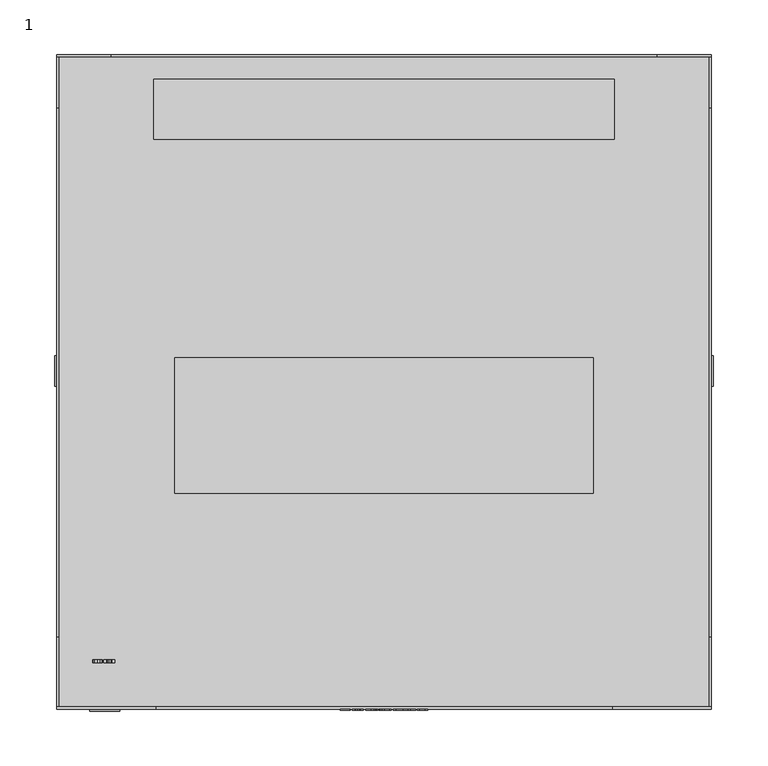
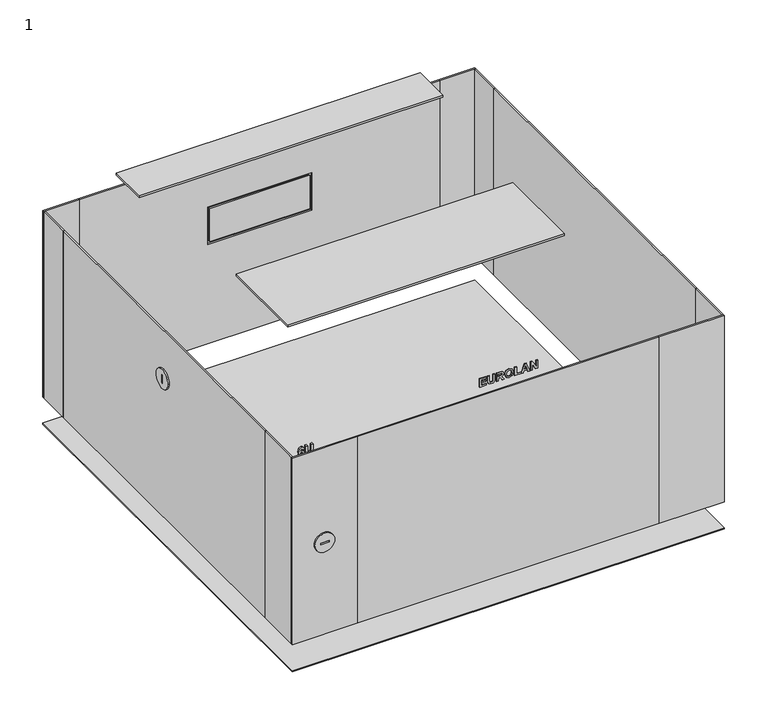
"""IFC4 building model written with IfcOpenShell, lengths in millimetres: proxy geometry, 1 : 6U 600мм стеклянная дверь."""

from ifc_helpers import new_model, si_unit, point, frame, frame_2d, origin, origin_with_axes, place, context, project, spatial, polyline, circle_curve, trimmed, segment, composite_curve, outline, extrude, source, transform, mapped, element, save


def proxy_1_a0e742fd(model_context):
    return source(origin(), model_context, "Body", "SweptSolid", [
        extrude(outline(polyline([(328.0, -40.3245382), (328.0, -30.9964522), (330.1376864, -30.9964522), (330.1376864, -37.9925167), (333.2470483, -37.9925167), (333.2470483, -31.5794576), (335.3847347, -31.5794576), (335.3847347, -37.9925167), (338.1054264, -37.9925167), (338.1054264, -31.1907874), (340.2431128, -31.1907874), (340.2431128, -40.3245382), (328.0, -40.3245382)])), frame((0.0, -301.0, 0.0), z_axis=(0.0, 1.0, 0.0), x_axis=(0.0, 0.0, 1.0)), (0.0, 0.0, 1.0), 1.0),
        extrude(outline(polyline([(340.2431128, -29.053101), (333.7207402, -29.053101), (330.6174512, -28.8071456), (329.2601418, -28.1026808), (328.2095176, -26.6482039), (327.8056649, -23.9487675), (328.1761162, -21.5575346), (329.173602, -20.0954664), (330.7085458, -19.3454543), (333.8209443, -19.1420097), (340.2431128, -19.1420097), (340.2431128, -21.4740312), (333.4960402, -21.4740312), (331.4236383, -21.5924541), (330.3714958, -22.2923642), (329.9433512, -24.0216432), (330.3973059, -25.7979877), (331.5982363, -26.6208755), (333.6387551, -26.7210795), (340.2431128, -26.7210795), (340.2431128, -29.053101)])), frame((0.0, -301.0, 0.0), z_axis=(0.0, 1.0, 0.0), x_axis=(0.0, 0.0, 1.0)), (0.0, 0.0, 1.0), 1.0),
        extrude(outline(polyline([(328.0, -16.8099882), (328.0, -14.4779667), (333.0527132, -13.9435451), (332.9251808, -12.6120459), (332.4560437, -11.8164865), (330.7966039, -10.4242575), (328.0, -8.6509495), (328.0, -5.9272213), (330.3745323, -7.424209), (332.3512849, -8.7238252), (333.3715443, -9.9475291), (334.5071902, -7.6625732), (336.7936644, -6.8988969), (338.7339791, -7.4272455), (339.9121358, -8.8361752), (340.2431128, -11.6601074), (340.2431128, -16.8099882), (328.0, -16.8099882)]), holes=[polyline([(335.1903996, -14.4779667), (338.1054264, -14.4779667), (338.1054264, -12.4495939), (338.0659521, -10.5548264), (337.6150339, -9.5770778), (336.6782779, -9.2309184), (335.817434, -9.4935744), (335.3315962, -10.2223312), (335.1903996, -12.5558709), (335.1903996, -14.4779667)])]), frame((0.0, -301.0, 0.0), z_axis=(0.0, 1.0, 0.0), x_axis=(0.0, 0.0, 1.0)), (0.0, 0.0, 1.0), 1.0),
        extrude(outline(polyline([(334.0456442, -4.9555457), (329.4681411, -3.3735363), (327.8056649, 0.8896905), (329.4757323, 5.1225524), (334.106374, 6.7045618), (338.7628257, 5.1104065), (340.4374479, 0.8593256), (339.9546466, -1.7338337), (338.8539203, -3.2869964), (337.1792981, -4.4059416), (334.0456442, -4.9555457)]), holes=[polyline([(334.1306659, -2.6235242), (337.2612832, -1.6579215), (338.2997616, 0.886654), (337.2734292, 3.4190836), (334.1640672, 4.3725403), (330.9985302, 3.3932735), (329.9433512, 0.886654), (331.0061214, -1.6321114), (334.1306659, -2.6235242)])]), frame((0.0, -301.0, 0.0), z_axis=(0.0, 1.0, 0.0), x_axis=(0.0, 0.0, 1.0)), (0.0, 0.0, 1.0), 1.0),
        extrude(outline(polyline([(328.0, 8.647913), (328.0, 17.1986585), (330.1376864, 17.1986585), (330.1376864, 10.9799345), (340.2431128, 10.9799345), (340.2431128, 8.647913), (328.0, 8.647913)])), frame((0.0, -301.0, 0.0), z_axis=(0.0, 1.0, 0.0), x_axis=(0.0, 0.0, 1.0)), (0.0, 0.0, 1.0), 1.0),
        extrude(outline(polyline([(328.0, 29.2474361), (340.2431128, 24.7352175), (340.2431128, 22.2513717), (328.0, 17.7816638), (328.0, 20.2655096), (330.7206917, 21.2128934), (330.7206917, 25.837462), (328.0, 26.7969917), (328.0, 29.2474361)]), holes=[polyline([(332.8583781, 25.0904864), (332.8583781, 21.959869), (337.3280859, 23.51455), (332.8583781, 25.0904864)])]), frame((0.0, -301.0, 0.0), z_axis=(0.0, 1.0, 0.0), x_axis=(0.0, 0.0, 1.0)), (0.0, 0.0, 1.0), 1.0),
        extrude(outline(polyline([(328.0, 30.4134469), (328.0, 32.7454684), (336.1195644, 32.7454684), (328.0, 37.8042546), (328.0, 40.3245382), (340.2431128, 40.3245382), (340.2431128, 37.9925167), (332.002089, 37.9925167), (340.2431128, 32.8578184), (340.2431128, 30.4134469), (328.0, 30.4134469)])), frame((0.0, -301.0, 0.0), z_axis=(0.0, 1.0, 0.0), x_axis=(0.0, 0.0, 1.0)), (0.0, 0.0, 1.0), 1.0),
        extrude(outline(composite_curve([segment(trimmed(circle_curve(frame_2d((9.997621, 243.4611412)), 14.0), [point((-4.002379, 243.4611412))], [point((23.997621, 243.4611412))], False, "CARTESIAN"), True, "CONTINUOUS"), segment(trimmed(circle_curve(frame_2d((9.997621, 243.4611412)), 14.0), [point((23.997621, 243.4611412))], [point((-4.002379, 243.4611412))], False, "CARTESIAN"), True, "CONTINUOUS")], self_intersect=False), holes=[polyline([(11.0, 249.5), (9.0, 249.5), (9.0, 237.5), (11.0, 237.5), (11.0, 249.5)])]), frame((-302.0, 0.0, 0.0), z_axis=(1.0, 0.0, 0.0), x_axis=(0.0, 1.0, 0.0)), (0.0, 0.0, 1.0), 2.0),
        extrude(outline(composite_curve([segment(trimmed(circle_curve(frame_2d((9.997621, 243.4611412)), 14.0), [point((-4.002379, 243.4611412))], [point((23.997621, 243.4611412))], False, "CARTESIAN"), True, "CONTINUOUS"), segment(trimmed(circle_curve(frame_2d((9.997621, 243.4611412)), 14.0), [point((23.997621, 243.4611412))], [point((-4.002379, 243.4611412))], False, "CARTESIAN"), True, "CONTINUOUS")], self_intersect=False), holes=[polyline([(11.0, 249.5), (9.0, 249.5), (9.0, 237.5), (11.0, 237.5), (11.0, 249.5)])]), frame((300.0, 0.0, 0.0), z_axis=(1.0, 0.0, 0.0), x_axis=(0.0, 1.0, 0.0)), (0.0, 0.0, 1.0), 2.0),
        extrude(outline(composite_curve([segment(trimmed(circle_curve(frame_2d((176.0, -256.0)), 13.7647373), [point((176.0, -242.2352627))], [point((176.0, -269.7647373))], False, "CARTESIAN"), True, "CONTINUOUS"), segment(trimmed(circle_curve(frame_2d((176.0, -256.0)), 13.7647373), [point((176.0, -269.7647373))], [point((176.0, -242.2352627))], False, "CARTESIAN"), True, "CONTINUOUS")], self_intersect=False), holes=[polyline([(177.0, -250.0), (175.0, -250.0), (175.0, -262.0), (177.0, -262.0), (177.0, -250.0)])]), frame((0.0, -302.0, 0.0), z_axis=(0.0, 1.0, 0.0), x_axis=(0.0, 0.0, 1.0)), (0.0, 0.0, 1.0), 2.0),
        extrude(outline(polyline([(300.0, 300.0), (300.0, -300.0), (-300.0, -300.0), (-300.0, 300.0), (300.0, 300.0)])), origin_with_axes(), (0.0, 0.0, 1.0), 2.0),
        extrude(outline(polyline([(211.0, 277.5), (211.0, 222.5), (-211.0, 222.5), (-211.0, 277.5), (211.0, 277.5)])), frame((0.0, 0.0, 348.9795778), z_axis=(0.0, 0.0, 1.0), x_axis=(1.0, 0.0, 0.0)), (0.0, 0.0, 1.0), 3.0204222),
        extrude(outline(polyline([(192.0, 22.0), (192.0, -102.0), (-192.0, -102.0), (-192.0, 22.0), (192.0, 22.0)])), frame((0.0, 0.0, 348.9795778), z_axis=(0.0, 0.0, 1.0), x_axis=(1.0, 0.0, 0.0)), (0.0, 0.0, 1.0), 3.0204222),
        extrude(outline(polyline([(-69.5, 300.0), (69.5, 300.0), (69.5, 298.0), (-69.5, 298.0), (-69.5, 300.0)])), frame((0.0, 0.0, 189.0), z_axis=(0.0, 0.0, 1.0), x_axis=(1.0, 0.0, 0.0)), (0.0, 0.0, 1.0), 49.0),
        extrude(outline(polyline([(314.0, -250.0), (40.0, -250.0), (40.0, 250.0), (314.0, 250.0), (314.0, -250.0)]), holes=[polyline([(241.0, -72.5), (241.0, 72.5), (186.0, 72.5), (186.0, -72.5), (241.0, -72.5)])]), frame((0.0, 298.0, 0.0), z_axis=(0.0, 1.0, 0.0), x_axis=(0.0, 0.0, 1.0)), (0.0, 0.0, 1.0), 2.0),
        extrude(outline(polyline([(-300.0, 300.0), (-250.0, 300.0), (-250.0, 298.0), (-300.0, 298.0), (-300.0, 300.0)])), frame((0.0, 0.0, 40.0), z_axis=(0.0, 0.0, 1.0), x_axis=(1.0, 0.0, 0.0)), (0.0, 0.0, 1.0), 274.0),
        extrude(outline(polyline([(250.0, 300.0), (300.0, 300.0), (300.0, 298.0), (250.0, 298.0), (250.0, 300.0)])), frame((0.0, 0.0, 40.0), z_axis=(0.0, 0.0, 1.0), x_axis=(1.0, 0.0, 0.0)), (0.0, 0.0, 1.0), 274.0),
        extrude(outline(polyline([(-209.0, -298.0), (209.0, -298.0), (209.0, -300.0), (-209.0, -300.0), (-209.0, -298.0)])), frame((0.0, 0.0, 40.0), z_axis=(0.0, 0.0, 1.0), x_axis=(1.0, 0.0, 0.0)), (0.0, 0.0, 1.0), 274.0),
        extrude(outline(polyline([(209.0, -298.0), (300.0, -298.0), (300.0, -300.0), (209.0, -300.0), (209.0, -298.0)])), frame((0.0, 0.0, 40.0), z_axis=(0.0, 0.0, 1.0), x_axis=(1.0, 0.0, 0.0)), (0.0, 0.0, 1.0), 274.0),
        extrude(outline(polyline([(-300.0, -298.0), (-209.0, -298.0), (-209.0, -300.0), (-300.0, -300.0), (-300.0, -298.0)])), frame((0.0, 0.0, 40.0), z_axis=(0.0, 0.0, 1.0), x_axis=(1.0, 0.0, 0.0)), (0.0, 0.0, 1.0), 274.0),
        extrude(outline(polyline([(-298.0, 250.8155315), (-298.0, -233.7095641), (-300.0, -233.7095641), (-300.0, 250.8155315), (-298.0, 250.8155315)])), frame((0.0, 0.0, 40.0), z_axis=(0.0, 0.0, 1.0), x_axis=(1.0, 0.0, 0.0)), (0.0, 0.0, 1.0), 274.0),
        extrude(outline(polyline([(-298.0, -233.7095641), (-298.0, -300.0), (-300.0, -300.0), (-300.0, -233.7095641), (-298.0, -233.7095641)])), frame((0.0, 0.0, 40.0), z_axis=(0.0, 0.0, 1.0), x_axis=(1.0, 0.0, 0.0)), (0.0, 0.0, 1.0), 274.0),
        extrude(outline(polyline([(-298.0, 300.0), (-298.0, 250.8155315), (-300.0, 250.8155315), (-300.0, 300.0), (-298.0, 300.0)])), frame((0.0, 0.0, 40.0), z_axis=(0.0, 0.0, 1.0), x_axis=(1.0, 0.0, 0.0)), (0.0, 0.0, 1.0), 274.0),
        extrude(outline(polyline([(300.0, 250.8155315), (300.0, -233.7095641), (298.0, -233.7095641), (298.0, 250.8155315), (300.0, 250.8155315)])), frame((0.0, 0.0, 40.0), z_axis=(0.0, 0.0, 1.0), x_axis=(1.0, 0.0, 0.0)), (0.0, 0.0, 1.0), 274.0),
        extrude(outline(polyline([(300.0, 300.0), (300.0, 250.8155315), (298.0, 250.8155315), (298.0, 300.0), (300.0, 300.0)])), frame((0.0, 0.0, 40.0), z_axis=(0.0, 0.0, 1.0), x_axis=(1.0, 0.0, 0.0)), (0.0, 0.0, 1.0), 274.0),
        extrude(outline(polyline([(300.0, -233.7095641), (300.0, -300.0), (298.0, -300.0), (298.0, -233.7095641), (300.0, -233.7095641)])), frame((0.0, 0.0, 40.0), z_axis=(0.0, 0.0, 1.0), x_axis=(1.0, 0.0, 0.0)), (0.0, 0.0, 1.0), 274.0),
        extrude(outline(polyline([(287.6111434, -258.8540615), (290.0281866, -259.9654155), (290.8601838, -262.1668681), (289.381415, -265.2473834), (284.5534017, -266.4331314), (279.8559574, -265.2974855), (278.4227359, -262.4006775), (279.5325716, -259.7073142), (282.4764451, -258.6597264), (285.2973409, -259.6845405), (286.390476, -262.1486492), (285.3671801, -264.2802626), (288.0772441, -263.6638558), (288.7224974, -262.4674802), (288.3900022, -261.5990451), (287.3621516, -261.186083), (287.6111434, -258.8540615)]), holes=[polyline([(282.5280654, -264.1011099), (283.8155356, -263.6532281), (284.2527896, -262.5585748), (283.7957984, -261.4396296), (282.3549856, -260.9917479), (280.9794573, -261.4077465), (280.5604222, -262.4462248), (281.0720702, -263.5970531), (282.5280654, -264.1011099)])]), frame((0.0, -257.6777479, 0.0), z_axis=(0.0, 1.0, 0.0), x_axis=(0.0, 0.0, 1.0)), (0.0, 0.0, 1.0), 3.0),
        extrude(outline(polyline([(290.8601838, -256.7163752), (284.3378112, -256.7163752), (281.2345222, -256.4704198), (279.8772128, -255.7659549), (278.8265886, -254.311478), (278.4227359, -251.6120417), (278.7931872, -249.2208087), (279.790673, -247.7587405), (281.3256168, -247.0087284), (284.4380153, -246.8052838), (290.8601838, -246.8052838), (290.8601838, -249.1373053), (284.1131112, -249.1373053), (282.0407093, -249.2557283), (280.9885668, -249.9556384), (280.5604222, -251.6849173), (281.0143769, -253.4612618), (282.2153073, -254.2841496), (284.2558261, -254.3843537), (290.8601838, -254.3843537), (290.8601838, -256.7163752)])), frame((0.0, -257.6777479, 0.0), z_axis=(0.0, 1.0, 0.0), x_axis=(0.0, 0.0, 1.0)), (0.0, 0.0, 1.0), 3.0),
        extrude(outline(polyline([(237.3503584, -266.4331314), (234.6964693, -265.1957632), (233.7096113, -262.522137), (235.2825112, -259.312571), (237.9029989, -258.4653913), (240.7679237, -259.4826142), (241.8716865, -261.960387), (241.3949581, -263.4634477), (243.6207026, -262.9927924), (243.6207026, -259.0483966), (245.9527241, -259.0483966), (245.9527241, -264.8784504), (239.0629366, -266.2387962), (238.7623245, -264.2164963), (239.7340001, -262.509991), (239.2633447, -261.2726229), (237.8513786, -260.7974128), (236.3467996, -261.3090607), (235.8472976, -262.5585748), (236.317953, -263.7002937), (237.5963138, -264.295445), (237.3503584, -266.4331314)])), frame((0.0, -257.6777479, 0.0), z_axis=(0.0, 1.0, 0.0), x_axis=(0.0, 0.0, 1.0)), (0.0, 0.0, 1.0), 3.0),
        extrude(outline(polyline([(246.1470592, -256.7163752), (239.6246866, -256.7163752), (236.5213976, -256.4704198), (235.1640882, -255.7659549), (234.113464, -254.311478), (233.7096113, -251.6120417), (234.0800626, -249.2208087), (235.0775484, -247.7587405), (236.6124922, -247.0087284), (239.7248907, -246.8052838), (246.1470592, -246.8052838), (246.1470592, -249.1373053), (239.3999866, -249.1373053), (237.3275847, -249.2557283), (236.2754422, -249.9556384), (235.8472976, -251.6849173), (236.3012523, -253.4612618), (237.5021827, -254.2841496), (239.5427015, -254.3843537), (246.1470592, -254.3843537), (246.1470592, -256.7163752)])), frame((0.0, -257.6777479, 0.0), z_axis=(0.0, 1.0, 0.0), x_axis=(0.0, 0.0, 1.0)), (0.0, 0.0, 1.0), 3.0),
        extrude(outline(polyline([(189.9283299, -262.1577586), (189.9283299, -259.8257371), (192.4546865, -259.8257371), (192.4546865, -258.2710562), (194.3980377, -258.2710562), (194.3980377, -259.8257371), (201.9771076, -259.8257371), (201.9771076, -261.848037), (194.3889283, -266.8218016), (192.4546865, -266.8218016), (192.4546865, -262.1577586), (189.9283299, -262.1577586)]), holes=[polyline([(194.3980377, -262.1577586), (194.3980377, -264.7630639), (198.3758348, -262.1577586), (194.3980377, -262.1577586)])]), frame((0.0, -257.6777479, 0.0), z_axis=(0.0, 1.0, 0.0), x_axis=(0.0, 0.0, 1.0)), (0.0, 0.0, 1.0), 3.0),
        extrude(outline(polyline([(202.1714427, -256.7163752), (195.6490701, -256.7163752), (192.5457811, -256.4704198), (191.1884717, -255.7659549), (190.1378475, -254.311478), (189.7339948, -251.6120417), (190.1044461, -249.2208087), (191.1019319, -247.7587405), (192.6368757, -247.0087284), (195.7492742, -246.8052838), (202.1714427, -246.8052838), (202.1714427, -249.1373053), (195.4243701, -249.1373053), (193.3519682, -249.2557283), (192.2998257, -249.9556384), (191.8716811, -251.6849173), (192.3256358, -253.4612618), (193.5265662, -254.2841496), (195.567085, -254.3843537), (202.1714427, -254.3843537), (202.1714427, -256.7163752)])), frame((0.0, -257.6777479, 0.0), z_axis=(0.0, 1.0, 0.0), x_axis=(0.0, 0.0, 1.0)), (0.0, 0.0, 1.0), 3.0),
        extrude(outline(polyline([(148.35045, -266.4331314), (145.734517, -265.2200551), (144.7339948, -262.5859032), (145.859013, -259.7847446), (148.5781864, -258.6597264), (150.4562532, -259.294352), (151.4567755, -260.9887114), (154.0286794, -259.2427318), (156.0691982, -260.0565101), (157.1714427, -262.6739613), (156.773663, -264.3971673), (155.6820462, -265.5965794), (153.8282713, -266.2387962), (153.4790753, -263.9067747), (154.6374949, -263.4892579), (155.0337563, -262.6587789), (154.6921516, -261.8708107), (153.776651, -261.5747533), (152.6956619, -261.9710147), (152.3130646, -263.1203248), (150.3909688, -263.3237694), (150.5640485, -262.397641), (150.0812472, -261.4001553), (148.7725216, -260.9917479), (147.3863656, -261.4381114), (146.8716811, -262.5403559), (147.3210811, -263.5757977), (148.6206973, -264.1011099), (148.35045, -266.4331314)])), frame((0.0, -257.6777479, 0.0), z_axis=(0.0, 1.0, 0.0), x_axis=(0.0, 0.0, 1.0)), (0.0, 0.0, 1.0), 3.0),
        extrude(outline(polyline([(157.1714427, -256.7163752), (150.6490701, -256.7163752), (147.5457811, -256.4704198), (146.1884717, -255.7659549), (145.1378475, -254.311478), (144.7339948, -251.6120417), (145.1044461, -249.2208087), (146.1019319, -247.7587405), (147.6368757, -247.0087284), (150.7492742, -246.8052838), (157.1714427, -246.8052838), (157.1714427, -249.1373053), (150.4243701, -249.1373053), (148.3519682, -249.2557283), (147.2998257, -249.9556384), (146.8716811, -251.6849173), (147.3256358, -253.4612618), (148.5265662, -254.2841496), (150.567085, -254.3843537), (157.1714427, -254.3843537), (157.1714427, -256.7163752)])), frame((0.0, -257.6777479, 0.0), z_axis=(0.0, 1.0, 0.0), x_axis=(0.0, 0.0, 1.0)), (0.0, 0.0, 1.0), 3.0),
        extrude(outline(polyline([(103.3014708, -258.8246798), (103.9391329, -262.7326376), (105.2660774, -261.4011384), (106.7964665, -259.9512162), (108.3298921, -259.094927), (109.8724272, -258.8246798), (112.2545507, -259.8115378), (113.2125621, -262.5261566), (112.3577912, -265.1527172), (109.5384137, -266.4037496), (109.3258596, -264.0717281), (110.6695048, -263.6223281), (111.0748758, -262.5777768), (110.6634319, -261.5347438), (109.4837569, -261.1567012), (108.0809003, -261.6061012), (106.1254031, -263.4097741), (103.2574418, -265.8541456), (100.9694493, -266.5980847), (100.9694493, -258.8246798), (103.3014708, -258.8246798)])), frame((0.0, -257.6777479, 0.0), z_axis=(0.0, 1.0, 0.0), x_axis=(0.0, 0.0, 1.0)), (0.0, 0.0, 1.0), 3.0),
        extrude(outline(polyline([(113.2125621, -256.8813285), (106.6901895, -256.8813285), (103.5869005, -256.6353731), (102.2295911, -255.9309083), (101.1789669, -254.4764314), (100.7751142, -251.776995), (101.1455655, -249.3857621), (102.1430513, -247.9236939), (103.6779951, -247.1736818), (106.7903936, -246.9702372), (113.2125621, -246.9702372), (113.2125621, -249.3022587), (106.4654895, -249.3022587), (104.3930876, -249.4206817), (103.3409451, -250.1205917), (102.9128006, -251.8498707), (103.3667553, -253.6262152), (104.5676856, -254.449103), (106.6082044, -254.549307), (113.2125621, -254.549307), (113.2125621, -256.8813285)])), frame((0.0, -257.6777479, 0.0), z_axis=(0.0, 1.0, 0.0), x_axis=(0.0, 0.0, 1.0)), (0.0, 0.0, 1.0), 3.0),
        extrude(outline(polyline([(59.9283299, -260.6030776), (72.1714427, -260.6030776), (72.1714427, -262.4614073), (70.2053178, -263.9037383), (69.0620807, -265.850126), (66.7300592, -265.850126), (68.6794834, -262.9350991), (59.9283299, -262.9350991), (59.9283299, -260.6030776)])), frame((0.0, -257.6777479, 0.0), z_axis=(0.0, 1.0, 0.0), x_axis=(0.0, 0.0, 1.0)), (0.0, 0.0, 1.0), 3.0),
        extrude(outline(polyline([(72.1714427, -256.7163752), (65.6490701, -256.7163752), (62.5457811, -256.4704198), (61.1884717, -255.7659549), (60.1378475, -254.311478), (59.7339948, -251.6120417), (60.1044461, -249.2208087), (61.1019319, -247.7587405), (62.6368757, -247.0087284), (65.7492742, -246.8052838), (72.1714427, -246.8052838), (72.1714427, -249.1373053), (65.4243701, -249.1373053), (63.3519682, -249.2557283), (62.2998257, -249.9556384), (61.8716811, -251.6849173), (62.3256358, -253.4612618), (63.5265662, -254.2841496), (65.567085, -254.3843537), (72.1714427, -254.3843537), (72.1714427, -256.7163752)])), frame((0.0, -257.6777479, 0.0), z_axis=(0.0, 1.0, 0.0), x_axis=(0.0, 0.0, 1.0)), (0.0, 0.0, 1.0), 3.0),
    ])


if __name__ == "__main__":
    model = new_model("IFC4")
    model_context = context("Model", 3, world=origin())
    ifc_project = project(units=[si_unit("LENGTHUNIT", "METRE", prefix="MILLI")], contexts=[model_context])
    site = spatial("IfcSite", under=ifc_project)
    building = spatial("IfcBuilding", under=site)
    placement = place(None, origin())
    proxy_1_shape = proxy_1_a0e742fd(model_context)
    element("IfcBuildingElementProxy", 1, Name="1 : 6U 600мм стеклянная дверь", ObjectType="1 : 6U 600мм стеклянная дверь", at=placement, inside=building, context=model_context, shape_type="MappedRepresentation", body=[
        mapped(proxy_1_shape, transform((0.0, 0.0, 0.0), x_axis=(1.0, 0.0, 0.0), y_axis=(0.0, 1.0, 0.0), z_axis=(0.0, 0.0, 1.0))),
    ])
    save(model, "model.ifc")
